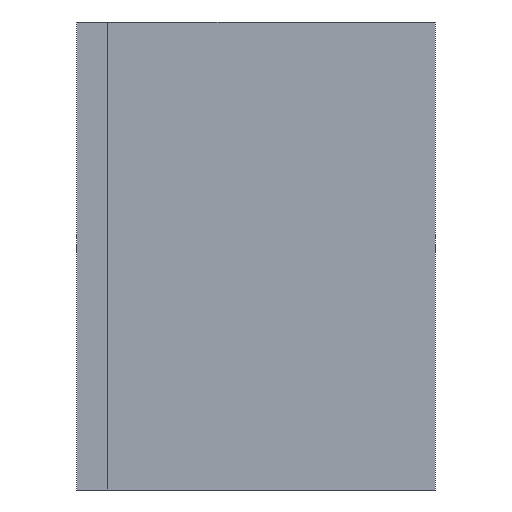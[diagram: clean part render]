
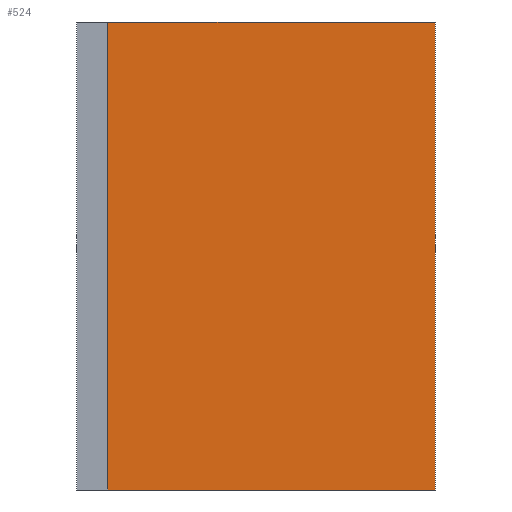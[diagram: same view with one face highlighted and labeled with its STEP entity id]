
A CAD part, left-side view. The second image highlights one B-rep face of the part: STEP entity #524.
In plain terms, the highlighted planar face has unit normal (-1, 0, 0).
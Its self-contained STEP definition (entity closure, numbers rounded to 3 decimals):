
#38=FACE_OUTER_BOUND('',#64,.T.);
#64=EDGE_LOOP('',(#451,#452,#453,#454));
#78=LINE('',#728,#150);
#91=LINE('',#756,#163);
#135=LINE('',#842,#207);
#137=LINE('',#845,#209);
#150=VECTOR('',#597,10.);
#163=VECTOR('',#616,10.);
#207=VECTOR('',#692,10.);
#209=VECTOR('',#696,10.);
#219=VERTEX_POINT('',#725);
#220=VERTEX_POINT('',#727);
#231=VERTEX_POINT('',#753);
#232=VERTEX_POINT('',#755);
#270=EDGE_CURVE('',#220,#219,#78,.T.);
#283=EDGE_CURVE('',#231,#232,#91,.T.);
#327=EDGE_CURVE('',#220,#231,#135,.T.);
#329=EDGE_CURVE('',#219,#232,#137,.T.);
#451=ORIENTED_EDGE('',*,*,#329,.T.);
#452=ORIENTED_EDGE('',*,*,#283,.F.);
#453=ORIENTED_EDGE('',*,*,#327,.F.);
#454=ORIENTED_EDGE('',*,*,#270,.T.);
#498=PLANE('',#573);
#524=ADVANCED_FACE('',(#38),#498,.T.);
#573=AXIS2_PLACEMENT_3D('',#844,#694,#695);
#597=DIRECTION('',(0.,0.,1.));
#616=DIRECTION('',(0.,0.,1.));
#692=DIRECTION('',(0.,1.,0.));
#694=DIRECTION('center_axis',(-1.,0.,0.));
#695=DIRECTION('ref_axis',(0.,0.,1.));
#696=DIRECTION('',(0.,1.,0.));
#725=CARTESIAN_POINT('',(-0.6,0.,0.3));
#727=CARTESIAN_POINT('',(-0.6,0.,0.));
#728=CARTESIAN_POINT('',(-0.6,0.,0.));
#753=CARTESIAN_POINT('',(-0.6,0.21,0.));
#755=CARTESIAN_POINT('',(-0.6,0.21,0.3));
#756=CARTESIAN_POINT('',(-0.6,0.21,0.));
#842=CARTESIAN_POINT('',(-0.6,0.,0.));
#844=CARTESIAN_POINT('Origin',(-0.6,0.,0.));
#845=CARTESIAN_POINT('',(-0.6,0.,0.3));
